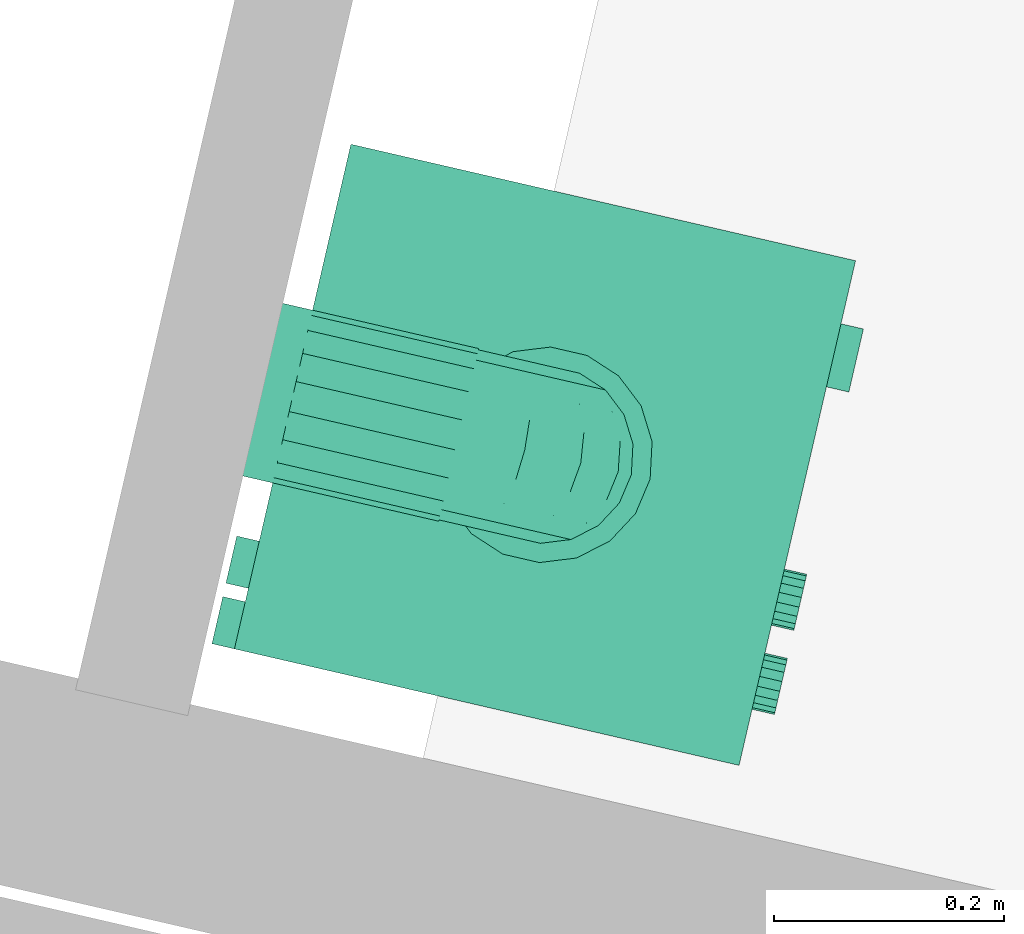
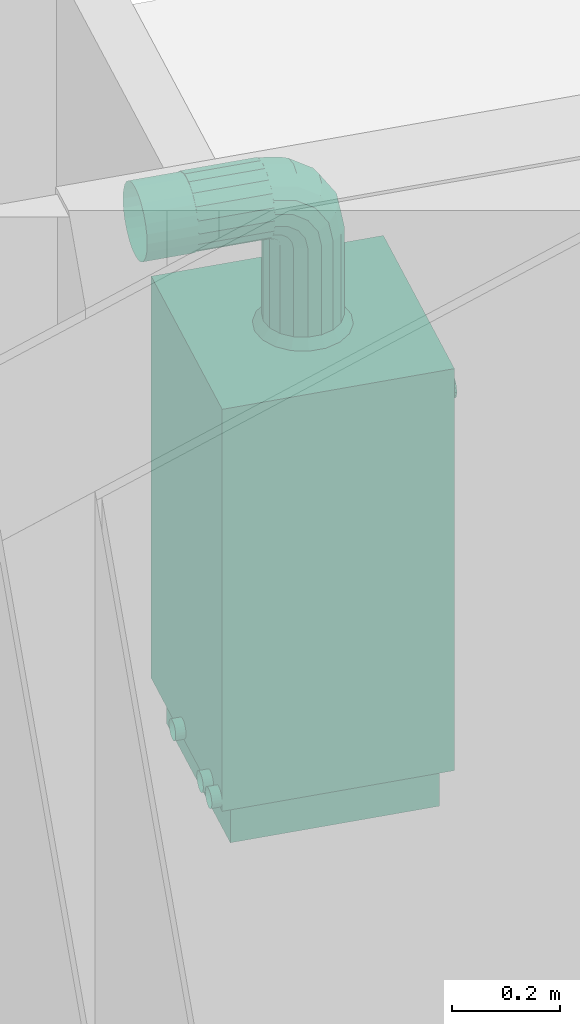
# One storey, part 104 of 119: 1 energy conversion device.
"""IFC2X3 building model written with IfcOpenShell, lengths in metres."""

from ifc_helpers import new_model, entity, si_unit, converted_unit, derived_unit, money_unit, direction, frame, origin_with_axes, place, context, subcontext, project, spatial, open_shell, faceted_brep, surface_model, source, transform, mapped, type_object, element, save


model = new_model("IFC2X3")

# Units and contexts
model_context = context("Model", 3, precision=1e-05, world=origin_with_axes(), true_north=direction((0.0, 1.0)))
body_context = subcontext(model_context, "Body", "Model", "MODEL_VIEW")
ifc_project = project(units=[si_unit("LENGTHUNIT", "METRE"), si_unit("AREAUNIT", "SQUARE_METRE"), si_unit("VOLUMEUNIT", "CUBIC_METRE"), converted_unit("PLANEANGLEUNIT", "DEGREE", entity("IfcPlaneAngleMeasure", 0.0174532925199), si_unit("PLANEANGLEUNIT", "RADIAN"), dimensions=[0, 0, 0, 0, 0, 0, 0]), si_unit("SOLIDANGLEUNIT", "STERADIAN"), money_unit("EUR"), converted_unit("TIMEUNIT", "Year", entity("IfcTimeMeasure", 31556926.0), si_unit("TIMEUNIT", "SECOND"), dimensions=[0, 0, 1, 0, 0, 0, 0]), si_unit("MASSUNIT", "GRAM", prefix="KILO"), si_unit("THERMODYNAMICTEMPERATUREUNIT", "DEGREE_CELSIUS"), si_unit("LUMINOUSINTENSITYUNIT", "LUMEN"), si_unit("ENERGYUNIT", "JOULE", prefix="MEGA"), derived_unit("THERMALCONDUCTANCEUNIT", [(si_unit("POWERUNIT", "WATT"), 1), (si_unit("LENGTHUNIT", "METRE"), -1), (si_unit("THERMODYNAMICTEMPERATUREUNIT", "KELVIN"), -1)]), derived_unit("SPECIFICHEATCAPACITYUNIT", [(si_unit("ENERGYUNIT", "JOULE"), 1), (si_unit("MASSUNIT", "GRAM", prefix="KILO"), -1), (si_unit("THERMODYNAMICTEMPERATUREUNIT", "KELVIN"), -1)]), derived_unit("MASSDENSITYUNIT", [(si_unit("MASSUNIT", "GRAM", prefix="KILO"), 1), (si_unit("VOLUMEUNIT", "CUBIC_METRE"), -1)])], contexts=[model_context])

# Site, building, storey
site_placement = place(None, origin_with_axes())
site = spatial("IfcSite", under=ifc_project, at=site_placement, Name="Site", CompositionType="ELEMENT")
building_placement = place(site_placement, origin_with_axes())
building = spatial("IfcBuilding", under=site, at=building_placement, Name="Bâtiment", CompositionType="ELEMENT")
storey_placement = place(building_placement, origin_with_axes())
storey = spatial("IfcBuildingStorey", under=building, at=storey_placement, Name="Rez-de-chaussée", CompositionType="ELEMENT", Elevation=0.0)

# Energy conversion device
boiler_type = type_object("IfcBoilerType", Name="Chaudière à gaz 23", PredefinedType="WATER")
shared_shape = source(origin_with_axes(), body_context, "Body", "SurfaceModel", [
    surface_model("IfcShellBasedSurfaceModel", [(-0.2, 0.45, 0.090909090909), (-0.2, 0.47, 0.090909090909), (-0.194564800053, 0.47, 0.0916246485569), (-0.194564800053, 0.45, 0.0916246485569), (-0.205435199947, 0.45, 0.0916246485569), (-0.205435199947, 0.47, 0.0916246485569), (-0.1895, 0.47, 0.0937225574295), (-0.1895, 0.45, 0.0937225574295), (-0.2105, 0.45, 0.0937225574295), (-0.2105, 0.47, 0.0937225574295), (-0.185150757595, 0.47, 0.0970598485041), (-0.185150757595, 0.45, 0.0970598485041), (-0.214849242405, 0.45, 0.0970598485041), (-0.214849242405, 0.47, 0.0970598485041), (-0.181813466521, 0.47, 0.101409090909), (-0.181813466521, 0.45, 0.101409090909), (-0.218186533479, 0.45, 0.101409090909), (-0.218186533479, 0.47, 0.101409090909), (-0.179715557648, 0.47, 0.106473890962), (-0.179715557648, 0.45, 0.106473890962), (-0.220284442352, 0.45, 0.106473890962), (-0.220284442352, 0.47, 0.106473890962), (-0.179, 0.47, 0.111909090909), (-0.179, 0.45, 0.111909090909), (-0.221, 0.45, 0.111909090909), (-0.221, 0.47, 0.111909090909), (-0.179715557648, 0.47, 0.117344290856), (-0.179715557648, 0.45, 0.117344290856), (-0.220284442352, 0.45, 0.117344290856), (-0.220284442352, 0.47, 0.117344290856), (-0.181813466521, 0.47, 0.122409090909), (-0.181813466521, 0.45, 0.122409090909), (-0.218186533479, 0.45, 0.122409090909), (-0.218186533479, 0.47, 0.122409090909), (-0.185150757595, 0.47, 0.126758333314), (-0.185150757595, 0.45, 0.126758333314), (-0.214849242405, 0.45, 0.126758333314), (-0.214849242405, 0.47, 0.126758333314), (-0.1895, 0.47, 0.130095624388), (-0.1895, 0.45, 0.130095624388), (-0.2105, 0.45, 0.130095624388), (-0.2105, 0.47, 0.130095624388), (-0.194564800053, 0.47, 0.132193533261), (-0.194564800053, 0.45, 0.132193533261), (-0.205435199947, 0.45, 0.132193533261), (-0.205435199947, 0.47, 0.132193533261), (-0.2, 0.47, 0.132909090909), (-0.2, 0.45, 0.132909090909)], [open_shell([[[0, 1, 2, 3]], [[4, 5, 1, 0]], [[3, 2, 6, 7]], [[8, 9, 5, 4]], [[7, 6, 10, 11]], [[12, 13, 9, 8]], [[11, 10, 14, 15]], [[16, 17, 13, 12]], [[15, 14, 18, 19]], [[20, 21, 17, 16]], [[19, 18, 22, 23]], [[24, 25, 21, 20]], [[23, 22, 26, 27]], [[28, 29, 25, 24]], [[27, 26, 30, 31]], [[32, 33, 29, 28]], [[31, 30, 34, 35]], [[36, 37, 33, 32]], [[35, 34, 38, 39]], [[40, 41, 37, 36]], [[39, 38, 42, 43]], [[44, 45, 41, 40]], [[43, 42, 46, 47]], [[47, 46, 45, 44]]])]),
    surface_model("IfcShellBasedSurfaceModel", [(-0.375, 0.45, 0.090909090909), (-0.375, 0.47, 0.090909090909), (-0.369564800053, 0.47, 0.0916246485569), (-0.369564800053, 0.45, 0.0916246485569), (-0.380435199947, 0.45, 0.0916246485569), (-0.380435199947, 0.47, 0.0916246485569), (-0.3645, 0.47, 0.0937225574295), (-0.3645, 0.45, 0.0937225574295), (-0.3855, 0.45, 0.0937225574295), (-0.3855, 0.47, 0.0937225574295), (-0.360150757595, 0.47, 0.0970598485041), (-0.360150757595, 0.45, 0.0970598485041), (-0.389849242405, 0.45, 0.0970598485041), (-0.389849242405, 0.47, 0.0970598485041), (-0.356813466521, 0.47, 0.101409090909), (-0.356813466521, 0.45, 0.101409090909), (-0.393186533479, 0.45, 0.101409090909), (-0.393186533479, 0.47, 0.101409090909), (-0.354715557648, 0.47, 0.106473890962), (-0.354715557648, 0.45, 0.106473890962), (-0.395284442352, 0.45, 0.106473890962), (-0.395284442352, 0.47, 0.106473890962), (-0.354, 0.47, 0.111909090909), (-0.354, 0.45, 0.111909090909), (-0.396, 0.45, 0.111909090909), (-0.396, 0.47, 0.111909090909), (-0.354715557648, 0.47, 0.117344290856), (-0.354715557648, 0.45, 0.117344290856), (-0.395284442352, 0.45, 0.117344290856), (-0.395284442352, 0.47, 0.117344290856), (-0.356813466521, 0.47, 0.122409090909), (-0.356813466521, 0.45, 0.122409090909), (-0.393186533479, 0.45, 0.122409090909), (-0.393186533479, 0.47, 0.122409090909), (-0.360150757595, 0.47, 0.126758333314), (-0.360150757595, 0.45, 0.126758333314), (-0.389849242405, 0.45, 0.126758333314), (-0.389849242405, 0.47, 0.126758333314), (-0.3645, 0.47, 0.130095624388), (-0.3645, 0.45, 0.130095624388), (-0.3855, 0.45, 0.130095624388), (-0.3855, 0.47, 0.130095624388), (-0.369564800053, 0.47, 0.132193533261), (-0.369564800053, 0.45, 0.132193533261), (-0.380435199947, 0.45, 0.132193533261), (-0.380435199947, 0.47, 0.132193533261), (-0.375, 0.47, 0.132909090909), (-0.375, 0.45, 0.132909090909)], [open_shell([[[0, 1, 2, 3]], [[4, 5, 1, 0]], [[3, 2, 6, 7]], [[8, 9, 5, 4]], [[7, 6, 10, 11]], [[12, 13, 9, 8]], [[11, 10, 14, 15]], [[16, 17, 13, 12]], [[15, 14, 18, 19]], [[20, 21, 17, 16]], [[19, 18, 22, 23]], [[24, 25, 21, 20]], [[23, 22, 26, 27]], [[28, 29, 25, 24]], [[27, 26, 30, 31]], [[32, 33, 29, 28]], [[31, 30, 34, 35]], [[36, 37, 33, 32]], [[35, 34, 38, 39]], [[40, 41, 37, 36]], [[39, 38, 42, 43]], [[44, 45, 41, 40]], [[43, 42, 46, 47]], [[47, 46, 45, 44]]])]),
    surface_model("IfcShellBasedSurfaceModel", [(-0.429, 0.45, 0.090909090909), (-0.429, 0.47, 0.090909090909), (-0.423564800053, 0.47, 0.0916246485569), (-0.423564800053, 0.45, 0.0916246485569), (-0.434435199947, 0.45, 0.0916246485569), (-0.434435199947, 0.47, 0.0916246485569), (-0.4185, 0.47, 0.0937225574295), (-0.4185, 0.45, 0.0937225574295), (-0.4395, 0.45, 0.0937225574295), (-0.4395, 0.47, 0.0937225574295), (-0.414150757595, 0.47, 0.0970598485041), (-0.414150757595, 0.45, 0.0970598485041), (-0.443849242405, 0.45, 0.0970598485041), (-0.443849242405, 0.47, 0.0970598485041), (-0.410813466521, 0.47, 0.101409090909), (-0.410813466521, 0.45, 0.101409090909), (-0.447186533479, 0.45, 0.101409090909), (-0.447186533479, 0.47, 0.101409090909), (-0.408715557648, 0.47, 0.106473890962), (-0.408715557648, 0.45, 0.106473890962), (-0.449284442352, 0.45, 0.106473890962), (-0.449284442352, 0.47, 0.106473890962), (-0.408, 0.47, 0.111909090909), (-0.408, 0.45, 0.111909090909), (-0.45, 0.45, 0.111909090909), (-0.45, 0.47, 0.111909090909), (-0.408715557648, 0.47, 0.117344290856), (-0.408715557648, 0.45, 0.117344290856), (-0.449284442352, 0.45, 0.117344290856), (-0.449284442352, 0.47, 0.117344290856), (-0.410813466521, 0.47, 0.122409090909), (-0.410813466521, 0.45, 0.122409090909), (-0.447186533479, 0.45, 0.122409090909), (-0.447186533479, 0.47, 0.122409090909), (-0.414150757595, 0.47, 0.126758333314), (-0.414150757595, 0.45, 0.126758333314), (-0.443849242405, 0.45, 0.126758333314), (-0.443849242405, 0.47, 0.126758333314), (-0.4185, 0.47, 0.130095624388), (-0.4185, 0.45, 0.130095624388), (-0.4395, 0.45, 0.130095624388), (-0.4395, 0.47, 0.130095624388), (-0.423564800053, 0.47, 0.132193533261), (-0.423564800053, 0.45, 0.132193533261), (-0.434435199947, 0.45, 0.132193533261), (-0.434435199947, 0.47, 0.132193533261), (-0.429, 0.47, 0.132909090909), (-0.429, 0.45, 0.132909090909)], [open_shell([[[0, 1, 2, 3]], [[4, 5, 1, 0]], [[3, 2, 6, 7]], [[8, 9, 5, 4]], [[7, 6, 10, 11]], [[12, 13, 9, 8]], [[11, 10, 14, 15]], [[16, 17, 13, 12]], [[15, 14, 18, 19]], [[20, 21, 17, 16]], [[19, 18, 22, 23]], [[24, 25, 21, 20]], [[23, 22, 26, 27]], [[28, 29, 25, 24]], [[27, 26, 30, 31]], [[32, 33, 29, 28]], [[31, 30, 34, 35]], [[36, 37, 33, 32]], [[35, 34, 38, 39]], [[40, 41, 37, 36]], [[39, 38, 42, 43]], [[44, 45, 41, 40]], [[43, 42, 46, 47]], [[47, 46, 45, 44]]])]),
    surface_model("IfcShellBasedSurfaceModel", [(-0.225, 0.45, 1.218), (-0.225, 0.55, 1.218), (-0.205070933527, 0.55, 1.22062371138), (-0.205070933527, 0.45, 1.22062371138), (-0.244929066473, 0.45, 1.22062371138), (-0.244929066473, 0.55, 1.22062371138), (-0.1865, 0.55, 1.22831604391), (-0.1865, 0.45, 1.22831604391), (-0.2635, 0.45, 1.22831604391), (-0.2635, 0.55, 1.22831604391), (-0.170552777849, 0.55, 1.24055277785), (-0.170552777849, 0.45, 1.24055277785), (-0.279447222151, 0.45, 1.24055277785), (-0.279447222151, 0.55, 1.24055277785), (-0.158316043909, 0.55, 1.2565), (-0.158316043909, 0.45, 1.2565), (-0.291683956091, 0.45, 1.2565), (-0.291683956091, 0.55, 1.2565), (-0.150623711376, 0.55, 1.27507093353), (-0.150623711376, 0.45, 1.27507093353), (-0.299376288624, 0.45, 1.27507093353), (-0.299376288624, 0.55, 1.27507093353), (-0.148, 0.55, 1.295), (-0.148, 0.45, 1.295), (-0.302, 0.45, 1.295), (-0.302, 0.55, 1.295), (-0.150623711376, 0.55, 1.31492906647), (-0.150623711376, 0.45, 1.31492906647), (-0.299376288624, 0.45, 1.31492906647), (-0.299376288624, 0.55, 1.31492906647), (-0.158316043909, 0.55, 1.3335), (-0.158316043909, 0.45, 1.3335), (-0.291683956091, 0.45, 1.3335), (-0.291683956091, 0.55, 1.3335), (-0.170552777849, 0.55, 1.34944722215), (-0.170552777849, 0.45, 1.34944722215), (-0.279447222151, 0.45, 1.34944722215), (-0.279447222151, 0.55, 1.34944722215), (-0.1865, 0.55, 1.36168395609), (-0.1865, 0.45, 1.36168395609), (-0.2635, 0.45, 1.36168395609), (-0.2635, 0.55, 1.36168395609), (-0.205070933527, 0.55, 1.36937628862), (-0.205070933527, 0.45, 1.36937628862), (-0.244929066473, 0.45, 1.36937628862), (-0.244929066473, 0.55, 1.36937628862), (-0.225, 0.55, 1.372), (-0.225, 0.45, 1.372)], [open_shell([[[0, 1, 2, 3]], [[4, 5, 1, 0]], [[3, 2, 6, 7]], [[8, 9, 5, 4]], [[7, 6, 10, 11]], [[12, 13, 9, 8]], [[11, 10, 14, 15]], [[16, 17, 13, 12]], [[15, 14, 18, 19]], [[20, 21, 17, 16]], [[19, 18, 22, 23]], [[24, 25, 21, 20]], [[23, 22, 26, 27]], [[28, 29, 25, 24]], [[27, 26, 30, 31]], [[32, 33, 29, 28]], [[31, 30, 34, 35]], [[36, 37, 33, 32]], [[35, 34, 38, 39]], [[40, 41, 37, 36]], [[39, 38, 42, 43]], [[44, 45, 41, 40]], [[43, 42, 46, 47]], [[47, 46, 45, 44]]])]),
    faceted_brep([(-0.4275, 0.0225, 0.0), (-0.4275, 0.4275, 0.0), (-0.0225, 0.4275, 0.0), (-0.0225, 0.0225, 0.0), (-0.4275, 0.0225, 0.0909090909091), (-0.4275, 0.4275, 0.0909090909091), (-0.0225, 0.4275, 0.0909090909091), (-0.0225, 0.0225, 0.0909090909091)], [[[0, 1, 2, 3]], [[0, 4, 5, 1]], [[1, 5, 6, 2]], [[2, 6, 7, 3]], [[3, 7, 4, 0]], [[7, 6, 5, 4]]]),
    faceted_brep([(0.0, 0.45, 0.0909090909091), (-0.45, 0.45, 0.0909090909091), (-0.45, 0.45, 1.0), (0.0, 0.45, 1.0), (0.0, 0.0, 0.0909090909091), (-0.45, 0.0, 0.0909090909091), (-0.45, 0.0, 0.818181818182), (-0.45, 0.0225, 0.818181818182), (-0.45, 0.0225, 1.0), (0.0, 0.0225, 1.0), (0.0, 0.0225, 0.818181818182), (0.0, 0.0, 0.818181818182)], [[[0, 1, 2, 3]], [[4, 5, 1, 0]], [[1, 5, 6, 7, 8, 2]], [[3, 2, 8, 9]], [[0, 3, 9, 10, 11, 4]], [[11, 6, 5, 4]], [[10, 7, 6, 11]], [[9, 8, 7, 10]]]),
    faceted_brep([(-0.45, 0.0, 0.818181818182), (-0.45, 0.0225, 0.818181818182), (0.0, 0.0225, 0.818181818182), (0.0, 0.0, 0.818181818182), (-0.45, 0.0, 1.0), (-0.45, 0.0225, 1.0), (0.0, 0.0225, 1.0), (0.0, 0.0, 1.0)], [[[0, 1, 2, 3]], [[0, 4, 5, 1]], [[1, 5, 6, 2]], [[2, 6, 7, 3]], [[3, 7, 4, 0]], [[7, 6, 5, 4]]]),
    faceted_brep([(-0.32349231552, 0.0, 0.900540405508), (-0.325, 0.0, 0.909090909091), (-0.32349231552, 0.0, 0.917641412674), (-0.319151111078, 0.0, 0.925160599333), (-0.3125, 0.0, 0.930741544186), (-0.304341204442, 0.0, 0.933711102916), (-0.295658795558, 0.0, 0.933711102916), (-0.2875, 0.0, 0.930741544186), (-0.280848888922, 0.0, 0.925160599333), (-0.27650768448, 0.0, 0.917641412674), (-0.275, 0.0, 0.909090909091), (-0.27650768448, 0.0, 0.900540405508), (-0.280848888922, 0.0, 0.893021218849), (-0.2875, 0.0, 0.887440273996), (-0.295658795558, 0.0, 0.884470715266), (-0.304341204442, 0.0, 0.884470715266), (-0.3125, 0.0, 0.887440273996), (-0.319151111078, 0.0, 0.893021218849), (-0.32349231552, -0.02, 0.900540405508), (-0.325, -0.02, 0.909090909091), (-0.32349231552, -0.02, 0.917641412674), (-0.319151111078, -0.02, 0.925160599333), (-0.3125, -0.02, 0.930741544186), (-0.304341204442, -0.02, 0.933711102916), (-0.295658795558, -0.02, 0.933711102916), (-0.2875, -0.02, 0.930741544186), (-0.280848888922, -0.02, 0.925160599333), (-0.27650768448, -0.02, 0.917641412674), (-0.275, -0.02, 0.909090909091), (-0.27650768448, -0.02, 0.900540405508), (-0.280848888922, -0.02, 0.893021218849), (-0.2875, -0.02, 0.887440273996), (-0.295658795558, -0.02, 0.884470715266), (-0.304341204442, -0.02, 0.884470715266), (-0.3125, -0.02, 0.887440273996), (-0.319151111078, -0.02, 0.893021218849)], [[[0, 1, 2, 3, 4, 5, 6, 7, 8, 9, 10, 11, 12, 13, 14, 15, 16, 17]], [[0, 18, 19, 1]], [[1, 19, 20, 2]], [[2, 20, 21, 3]], [[3, 21, 22, 4]], [[4, 22, 23, 5]], [[5, 23, 24, 6]], [[6, 24, 25, 7]], [[7, 25, 26, 8]], [[8, 26, 27, 9]], [[9, 27, 28, 10]], [[10, 28, 29, 11]], [[11, 29, 30, 12]], [[12, 30, 31, 13]], [[13, 31, 32, 14]], [[14, 32, 33, 15]], [[15, 33, 34, 16]], [[16, 34, 35, 17]], [[17, 35, 18, 0]], [[18, 35, 34, 33, 32, 31, 30, 29, 28, 27, 26, 25, 24, 23, 22, 21, 20, 19]]]),
    faceted_brep([(-0.39849231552, 0.0, 0.900540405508), (-0.4, 0.0, 0.909090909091), (-0.39849231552, 0.0, 0.917641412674), (-0.394151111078, 0.0, 0.925160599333), (-0.3875, 0.0, 0.930741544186), (-0.379341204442, 0.0, 0.933711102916), (-0.370658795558, 0.0, 0.933711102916), (-0.3625, 0.0, 0.930741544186), (-0.355848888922, 0.0, 0.925160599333), (-0.35150768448, 0.0, 0.917641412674), (-0.35, 0.0, 0.909090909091), (-0.35150768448, 0.0, 0.900540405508), (-0.355848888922, 0.0, 0.893021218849), (-0.3625, 0.0, 0.887440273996), (-0.370658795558, 0.0, 0.884470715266), (-0.379341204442, 0.0, 0.884470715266), (-0.3875, 0.0, 0.887440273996), (-0.394151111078, 0.0, 0.893021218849), (-0.39849231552, -0.02, 0.900540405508), (-0.4, -0.02, 0.909090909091), (-0.39849231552, -0.02, 0.917641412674), (-0.394151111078, -0.02, 0.925160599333), (-0.3875, -0.02, 0.930741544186), (-0.379341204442, -0.02, 0.933711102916), (-0.370658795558, -0.02, 0.933711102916), (-0.3625, -0.02, 0.930741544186), (-0.355848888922, -0.02, 0.925160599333), (-0.35150768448, -0.02, 0.917641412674), (-0.35, -0.02, 0.909090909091), (-0.35150768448, -0.02, 0.900540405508), (-0.355848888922, -0.02, 0.893021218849), (-0.3625, -0.02, 0.887440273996), (-0.370658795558, -0.02, 0.884470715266), (-0.379341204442, -0.02, 0.884470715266), (-0.3875, -0.02, 0.887440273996), (-0.394151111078, -0.02, 0.893021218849)], [[[0, 1, 2, 3, 4, 5, 6, 7, 8, 9, 10, 11, 12, 13, 14, 15, 16, 17]], [[0, 18, 19, 1]], [[1, 19, 20, 2]], [[2, 20, 21, 3]], [[3, 21, 22, 4]], [[4, 22, 23, 5]], [[5, 23, 24, 6]], [[6, 24, 25, 7]], [[7, 25, 26, 8]], [[8, 26, 27, 9]], [[9, 27, 28, 10]], [[10, 28, 29, 11]], [[11, 29, 30, 12]], [[12, 30, 31, 13]], [[13, 31, 32, 14]], [[14, 32, 33, 15]], [[15, 33, 34, 16]], [[16, 34, 35, 17]], [[17, 35, 18, 0]], [[18, 35, 34, 33, 32, 31, 30, 29, 28, 27, 26, 25, 24, 23, 22, 21, 20, 19]]]),
    faceted_brep([(-0.1125, 0.0, 0.878787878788), (-0.1125, 0.0, 0.939393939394), (-0.05625, 0.0, 0.939393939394), (-0.05625, 0.0, 0.878787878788), (-0.1125, -0.02, 0.878787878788), (-0.1125, -0.02, 0.939393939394), (-0.05625, -0.02, 0.939393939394), (-0.05625, -0.02, 0.878787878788)], [[[0, 1, 2, 3]], [[0, 4, 5, 1]], [[1, 5, 6, 2]], [[2, 6, 7, 3]], [[3, 7, 4, 0]], [[7, 6, 5, 4]]]),
    surface_model("IfcShellBasedSurfaceModel", [(-0.198664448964, 0.297356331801, 1.22), (-0.198664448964, 0.297356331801, 1.02), (-0.225, 0.302, 1.02), (-0.225, 0.302, 1.22), (-0.175505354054, 0.28398542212, 1.22), (-0.175505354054, 0.28398542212, 1.02), (-0.192935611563, 0.313096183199, 1.0), (-0.225, 0.31875, 1.0), (-0.251335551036, 0.297356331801, 1.02), (-0.251335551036, 0.297356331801, 1.22), (-0.158316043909, 0.2635, 1.22), (-0.158316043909, 0.2635, 1.02), (-0.164738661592, 0.296816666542, 1.0), (-0.257064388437, 0.313096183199, 1.0), (-0.274494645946, 0.28398542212, 1.02), (-0.274494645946, 0.28398542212, 1.22), (-0.149169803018, 0.23837090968, 1.22), (-0.149169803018, 0.23837090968, 1.02), (-0.143810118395, 0.271875, 1.0), (-0.285261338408, 0.296816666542, 1.0), (-0.291683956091, 0.2635, 1.02), (-0.291683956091, 0.2635, 1.22), (-0.149169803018, 0.21162909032, 1.22), (-0.149169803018, 0.21162909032, 1.02), (-0.132674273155, 0.241279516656, 1.0), (-0.306189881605, 0.271875, 1.0), (-0.300830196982, 0.23837090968, 1.02), (-0.300830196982, 0.23837090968, 1.22), (-0.158316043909, 0.1865, 1.22), (-0.158316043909, 0.1865, 1.02), (-0.132674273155, 0.208720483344, 1.0), (-0.317325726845, 0.241279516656, 1.0), (-0.300830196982, 0.21162909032, 1.02), (-0.300830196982, 0.21162909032, 1.22), (-0.175505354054, 0.16601457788, 1.22), (-0.175505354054, 0.16601457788, 1.02), (-0.143810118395, 0.178125, 1.0), (-0.317325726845, 0.208720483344, 1.0), (-0.291683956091, 0.1865, 1.02), (-0.291683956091, 0.1865, 1.22), (-0.198664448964, 0.152643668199, 1.22), (-0.198664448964, 0.152643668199, 1.02), (-0.164738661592, 0.153183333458, 1.0), (-0.306189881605, 0.178125, 1.0), (-0.274494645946, 0.16601457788, 1.02), (-0.274494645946, 0.16601457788, 1.22), (-0.225, 0.148, 1.22), (-0.225, 0.148, 1.02), (-0.192935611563, 0.136903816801, 1.0), (-0.285261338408, 0.153183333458, 1.0), (-0.251335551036, 0.152643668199, 1.02), (-0.251335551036, 0.152643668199, 1.22), (-0.225, 0.13125, 1.0), (-0.257064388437, 0.136903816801, 1.0)], [open_shell([[[0, 1, 2, 3]], [[4, 5, 1, 0]], [[1, 6, 7, 2]], [[3, 2, 8, 9]], [[10, 11, 5, 4]], [[5, 12, 6, 1]], [[2, 7, 13, 8]], [[9, 8, 14, 15]], [[16, 17, 11, 10]], [[11, 18, 12, 5]], [[8, 13, 19, 14]], [[15, 14, 20, 21]], [[22, 23, 17, 16]], [[17, 24, 18, 11]], [[14, 19, 25, 20]], [[21, 20, 26, 27]], [[28, 29, 23, 22]], [[23, 30, 24, 17]], [[20, 25, 31, 26]], [[27, 26, 32, 33]], [[34, 35, 29, 28]], [[29, 36, 30, 23]], [[26, 31, 37, 32]], [[33, 32, 38, 39]], [[40, 41, 35, 34]], [[35, 42, 36, 29]], [[32, 37, 43, 38]], [[39, 38, 44, 45]], [[46, 47, 41, 40]], [[41, 48, 42, 35]], [[38, 43, 49, 44]], [[45, 44, 50, 51]], [[51, 50, 47, 46]], [[47, 52, 48, 41]], [[44, 49, 53, 50]], [[50, 53, 52, 47]]])]),
    faceted_brep([(-0.300830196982, 0.218508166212, 1.2545834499), (-0.300830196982, 0.21162909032, 1.22), (-0.291683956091, 0.1865, 1.22), (-0.291683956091, 0.195291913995, 1.26419993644), (-0.300830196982, 0.243214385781, 1.24434979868), (-0.300830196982, 0.23837090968, 1.22), (-0.291683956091, 0.2635, 1.22), (-0.274494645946, 0.28398542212, 1.22), (-0.251335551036, 0.297356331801, 1.22), (-0.225, 0.302, 1.22), (-0.198664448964, 0.297356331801, 1.22), (-0.175505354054, 0.28398542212, 1.22), (-0.158316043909, 0.2635, 1.22), (-0.149169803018, 0.23837090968, 1.22), (-0.149169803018, 0.21162909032, 1.22), (-0.158316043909, 0.1865, 1.22), (-0.175505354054, 0.16601457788, 1.22), (-0.198664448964, 0.152643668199, 1.22), (-0.225, 0.148, 1.22), (-0.251335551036, 0.152643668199, 1.22), (-0.274494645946, 0.16601457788, 1.22), (-0.274494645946, 0.176365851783, 1.27203936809), (-0.300830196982, 0.238098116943, 1.28390188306), (-0.291683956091, 0.220329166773, 1.30167083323), (-0.300830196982, 0.257007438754, 1.26499256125), (-0.291683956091, 0.266430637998, 1.23473331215), (-0.274494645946, 0.28535670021, 1.2268938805), (-0.251335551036, 0.297709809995, 1.22177705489), (-0.198664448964, 0.297709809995, 1.22177705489), (-0.175505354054, 0.28535670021, 1.2268938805), (-0.158316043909, 0.266430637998, 1.23473331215), (-0.149169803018, 0.243214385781, 1.24434979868), (-0.149169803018, 0.218508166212, 1.2545834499), (-0.158316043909, 0.195291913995, 1.26419993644), (-0.175505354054, 0.176365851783, 1.27203936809), (-0.198664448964, 0.164012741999, 1.2771561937), (-0.225, 0.159722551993, 1.27893324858), (-0.251335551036, 0.164012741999, 1.2771561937), (-0.274494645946, 0.205843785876, 1.31615621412), (-0.291683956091, 0.257800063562, 1.32670808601), (-0.300830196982, 0.267416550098, 1.30349183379), (-0.300830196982, 0.277650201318, 1.27878561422), (-0.291683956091, 0.274776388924, 1.24722361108), (-0.274494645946, 0.289261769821, 1.23273823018), (-0.251335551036, 0.298716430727, 1.22328356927), (-0.198664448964, 0.298716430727, 1.22328356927), (-0.175505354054, 0.289261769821, 1.23273823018), (-0.158316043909, 0.274776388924, 1.24722361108), (-0.149169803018, 0.257007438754, 1.26499256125), (-0.149169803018, 0.238098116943, 1.28390188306), (-0.158316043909, 0.220329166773, 1.30167083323), (-0.175505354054, 0.205843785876, 1.31615621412), (-0.198664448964, 0.196389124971, 1.32561087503), (-0.225, 0.193105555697, 1.3288944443), (-0.251335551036, 0.196389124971, 1.32561087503), (-0.274494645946, 0.249960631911, 1.34563414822), (-0.291683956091, 0.302, 1.3355), (-0.300830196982, 0.302, 1.31037090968), (-0.300830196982, 0.302, 1.28362909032), (-0.291683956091, 0.287266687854, 1.255569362), (-0.274494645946, 0.295106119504, 1.23664329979), (-0.251335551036, 0.300222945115, 1.22429019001), (-0.198664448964, 0.300222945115, 1.22429019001), (-0.175505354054, 0.295106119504, 1.23664329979), (-0.158316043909, 0.287266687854, 1.255569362), (-0.149169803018, 0.277650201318, 1.27878561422), (-0.149169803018, 0.267416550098, 1.30349183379), (-0.158316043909, 0.257800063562, 1.32670808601), (-0.175505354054, 0.249960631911, 1.34563414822), (-0.198664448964, 0.244843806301, 1.357987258), (-0.225, 0.243066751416, 1.36227744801), (-0.251335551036, 0.244843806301, 1.357987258), (-0.274494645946, 0.302, 1.35598542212), (-0.291683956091, 0.302, 1.2585), (-0.251335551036, 0.302, 1.3693563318), (-0.225, 0.302, 1.374), (-0.198664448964, 0.302, 1.3693563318), (-0.175505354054, 0.302, 1.35598542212), (-0.158316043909, 0.302, 1.3355), (-0.149169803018, 0.302, 1.31037090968), (-0.149169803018, 0.302, 1.28362909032), (-0.158316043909, 0.302, 1.2585), (-0.175505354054, 0.302, 1.23801457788), (-0.198664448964, 0.302, 1.2246436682), (-0.251335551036, 0.302, 1.2246436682), (-0.274494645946, 0.302, 1.23801457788)], [[[0, 1, 2, 3]], [[1, 0, 4, 5]], [[2, 1, 5, 6, 7, 8, 9, 10, 11, 12, 13, 14, 15, 16, 17, 18, 19, 20]], [[3, 2, 20, 21]], [[22, 0, 3, 23]], [[0, 22, 24, 4]], [[6, 5, 4, 25]], [[26, 7, 6, 25]], [[7, 26, 27, 8]], [[8, 27, 9]], [[28, 10, 9]], [[10, 28, 29, 11]], [[30, 12, 11, 29]], [[12, 30, 31, 13]], [[32, 14, 13, 31]], [[15, 14, 32, 33]], [[34, 16, 15, 33]], [[17, 16, 34, 35]], [[36, 18, 17, 35]], [[19, 18, 36, 37]], [[21, 20, 19, 37]], [[23, 3, 21, 38]], [[22, 23, 39, 40]], [[24, 22, 40, 41]], [[4, 24, 42, 25]], [[43, 26, 25, 42]], [[26, 43, 44, 27]], [[27, 44, 9]], [[45, 28, 9]], [[28, 45, 46, 29]], [[29, 46, 47, 30]], [[31, 30, 47, 48]], [[49, 32, 31, 48]], [[32, 49, 50, 33]], [[51, 34, 33, 50]], [[35, 34, 51, 52]], [[53, 36, 35, 52]], [[54, 37, 36, 53]], [[38, 21, 37, 54]], [[39, 23, 38, 55]], [[40, 39, 56, 57]], [[41, 40, 57, 58]], [[59, 42, 24, 41]], [[42, 59, 60, 43]], [[43, 60, 61, 44]], [[44, 61, 9]], [[62, 45, 9]], [[45, 62, 63, 46]], [[46, 63, 64, 47]], [[47, 64, 65, 48]], [[66, 49, 48, 65]], [[50, 49, 66, 67]], [[68, 51, 50, 67]], [[52, 51, 68, 69]], [[53, 52, 69, 70]], [[71, 54, 53, 70]], [[55, 38, 54, 71]], [[56, 39, 55, 72]], [[73, 58, 57, 56, 72, 74, 75, 76, 77, 78, 79, 80, 81, 82, 83, 9, 84, 85]], [[59, 41, 58, 73]], [[59, 73, 85, 60]], [[60, 85, 84, 61]], [[61, 84, 9]], [[62, 9, 83]], [[63, 62, 83, 82]], [[63, 82, 81, 64]], [[65, 64, 81, 80]], [[66, 65, 80, 79]], [[67, 66, 79, 78]], [[77, 68, 67, 78]], [[69, 68, 77, 76]], [[75, 70, 69, 76]], [[71, 70, 75, 74]], [[72, 55, 71, 74]]]),
    surface_model("IfcShellBasedSurfaceModel", [(-0.152643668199, 0.45, 1.32333555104), (-0.152643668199, 0.302, 1.32333555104), (-0.148, 0.302, 1.297), (-0.148, 0.45, 1.297), (-0.16601457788, 0.45, 1.34649464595), (-0.16601457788, 0.302, 1.34649464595), (-0.152643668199, 0.302, 1.27066444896), (-0.152643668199, 0.45, 1.27066444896), (-0.1865, 0.45, 1.36368395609), (-0.1865, 0.302, 1.36368395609), (-0.16601457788, 0.302, 1.24750535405), (-0.16601457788, 0.45, 1.24750535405), (-0.21162909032, 0.45, 1.37283019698), (-0.21162909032, 0.302, 1.37283019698), (-0.1865, 0.302, 1.23031604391), (-0.1865, 0.45, 1.23031604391), (-0.23837090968, 0.45, 1.37283019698), (-0.23837090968, 0.302, 1.37283019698), (-0.21162909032, 0.302, 1.22116980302), (-0.21162909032, 0.45, 1.22116980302), (-0.2635, 0.45, 1.36368395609), (-0.2635, 0.302, 1.36368395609), (-0.23837090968, 0.302, 1.22116980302), (-0.23837090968, 0.45, 1.22116980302), (-0.28398542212, 0.45, 1.34649464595), (-0.28398542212, 0.302, 1.34649464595), (-0.2635, 0.302, 1.23031604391), (-0.2635, 0.45, 1.23031604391), (-0.297356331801, 0.45, 1.32333555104), (-0.297356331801, 0.302, 1.32333555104), (-0.28398542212, 0.302, 1.24750535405), (-0.28398542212, 0.45, 1.24750535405), (-0.302, 0.45, 1.297), (-0.302, 0.302, 1.297), (-0.297356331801, 0.302, 1.27066444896), (-0.297356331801, 0.45, 1.27066444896)], [open_shell([[[0, 1, 2, 3]], [[4, 5, 1, 0]], [[3, 2, 6, 7]], [[8, 9, 5, 4]], [[7, 6, 10, 11]], [[12, 13, 9, 8]], [[11, 10, 14, 15]], [[16, 17, 13, 12]], [[15, 14, 18, 19]], [[20, 21, 17, 16]], [[19, 18, 22, 23]], [[24, 25, 21, 20]], [[23, 22, 26, 27]], [[28, 29, 25, 24]], [[27, 26, 30, 31]], [[32, 33, 29, 28]], [[31, 30, 34, 35]], [[35, 34, 33, 32]]])]),
])
energy_conversion_device_placement = place(storey_placement, frame((-6.76604904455, 4.37813973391, 0.9), z_axis=(0.0, 0.0, 1.0), x_axis=(0.224876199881, 0.974387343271, 0.0)))
element("IfcEnergyConversionDevice", 1, at=energy_conversion_device_placement, inside=storey, type_object=boiler_type, Name="MOB-002", context=body_context, shape_type="MappedRepresentation", body=[
    mapped(shared_shape, transform((0.0, 0.0, 0.0))),
])

save(model, "model.ifc")
